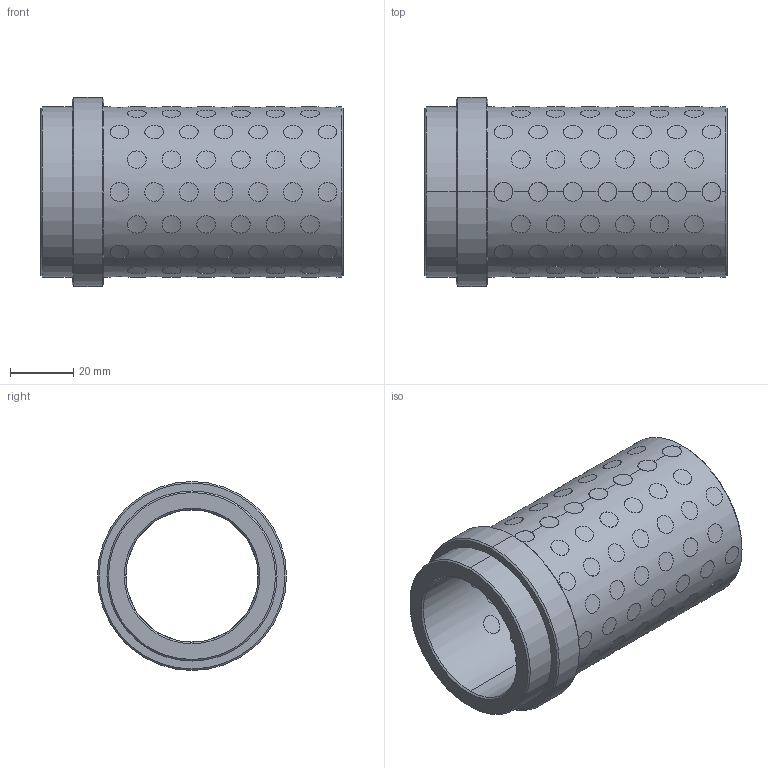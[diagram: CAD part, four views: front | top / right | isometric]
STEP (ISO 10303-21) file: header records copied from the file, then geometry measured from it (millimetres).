
FILE_DESCRIPTION((''),'2;1');
FILE_NAME('G31242086','2017-12-31T',('MANU'),(''),'PRO/ENGINEER BY PARAMETRIC TECHNOLOGY CORPORATION, 2012130','PRO/ENGINEER BY PARAMETRIC TECHNOLOGY CORPORATION, 2012130','');
FILE_SCHEMA(('CONFIG_CONTROL_DESIGN'));
Length unit declared in the file: millimetre
Products named in the file (1): G31242086
Bounding box: 96 x 60 x 60 mm (x, y, z)
Volume: 91814.6 mm3; surface area: 55158.9 mm2
Topology: 105 solids, 105 shells, 648 faces, 1380 edges, 916 vertices
Faces by surface type: cylinder 632, cone 12, plane 4
Entity records: 33224 total; most frequent: CARTESIAN_POINT 20618, ORIENTED_EDGE 2760, DIRECTION 1816, EDGE_CURVE 1380, VERTEX_POINT 916, B_SPLINE_CURVE_WITH_KNOTS 888, EDGE_LOOP 832, AXIS2_PLACEMENT_3D 676
